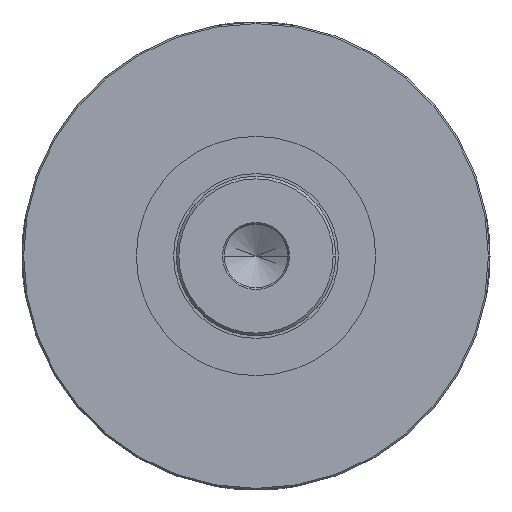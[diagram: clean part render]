
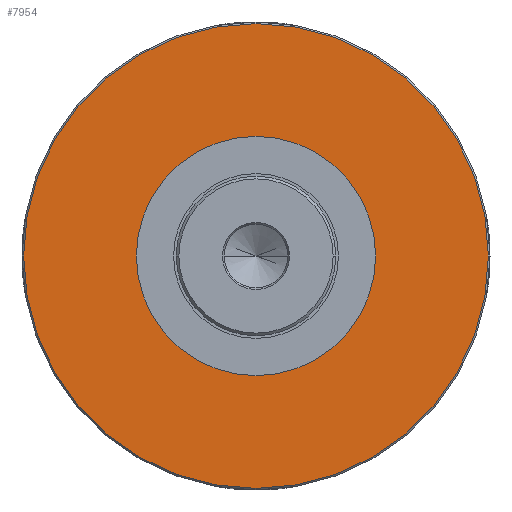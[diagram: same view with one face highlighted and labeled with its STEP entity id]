
A CAD part, left-side view. The second image highlights one B-rep face of the part: STEP entity #7954.
In plain terms, the highlighted planar face has unit normal (-1, 0, 0).
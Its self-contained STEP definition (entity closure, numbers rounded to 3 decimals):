
#7377=CARTESIAN_POINT('',(-26.5,0.,0.));
#7378=DIRECTION('',(-1.,0.,0.));
#7379=DIRECTION('',(0.,1.,0.));
#7380=AXIS2_PLACEMENT_3D('',#7377,#7378,#7379);
#7392=CARTESIAN_POINT('',(-26.5,0.,0.));
#7393=DIRECTION('',(1.,0.,0.));
#7394=DIRECTION('',(0.,1.,0.));
#7395=AXIS2_PLACEMENT_3D('',#7392,#7393,#7394);
#7407=CARTESIAN_POINT('',(-26.5,0.,0.));
#7408=DIRECTION('',(-1.,0.,0.));
#7409=DIRECTION('',(0.,1.,0.));
#7410=AXIS2_PLACEMENT_3D('',#7407,#7408,#7409);
#7415=CARTESIAN_POINT('',(-26.5,0.,0.));
#7416=DIRECTION('',(1.,0.,0.));
#7417=DIRECTION('',(0.,1.,0.));
#7418=AXIS2_PLACEMENT_3D('',#7415,#7416,#7417);
#7833=CARTESIAN_POINT('',(-26.5,22.501,0.));
#7835=VERTEX_POINT('',#7833);
#7837=CARTESIAN_POINT('',(-26.5,-22.501,0.));
#7839=VERTEX_POINT('',#7837);
#7851=CARTESIAN_POINT('',(-26.5,43.7,0.));
#7852=VERTEX_POINT('',#7851);
#7863=CARTESIAN_POINT('',(-26.5,-43.7,0.));
#7864=VERTEX_POINT('',#7863);
#7939=CARTESIAN_POINT('',(-26.5,0.,0.));
#7940=DIRECTION('',(-1.,0.,0.));
#7941=DIRECTION('',(0.,1.,0.));
#7942=AXIS2_PLACEMENT_3D('',#7939,#7940,#7941);
#7943=PLANE('',#7942);
#7945=ORIENTED_EDGE('',*,*,#7944,.F.);
#7947=ORIENTED_EDGE('',*,*,#7946,.T.);
#7948=EDGE_LOOP('',(#7945,#7947));
#7949=FACE_OUTER_BOUND('',#7948,.F.);
#7950=ORIENTED_EDGE('',*,*,#7932,.F.);
#7951=ORIENTED_EDGE('',*,*,#7921,.T.);
#7952=EDGE_LOOP('',(#7950,#7951));
#7953=FACE_BOUND('',#7952,.F.);
#7381=CIRCLE('',#7380,22.501);
#7396=CIRCLE('',#7395,22.501);
#7411=CIRCLE('',#7410,43.7);
#7419=CIRCLE('',#7418,43.7);
#7921=EDGE_CURVE('',#7835,#7839,#7381,.T.);
#7932=EDGE_CURVE('',#7835,#7839,#7396,.T.);
#7944=EDGE_CURVE('',#7852,#7864,#7411,.T.);
#7946=EDGE_CURVE('',#7852,#7864,#7419,.T.);
#7954=ADVANCED_FACE('',(#7949,#7953),#7943,.T.);
